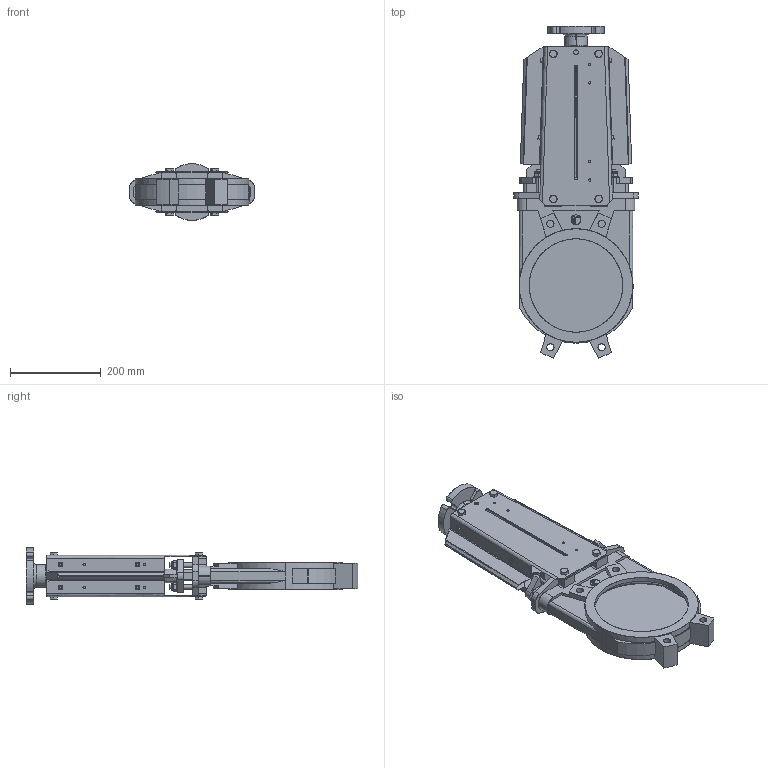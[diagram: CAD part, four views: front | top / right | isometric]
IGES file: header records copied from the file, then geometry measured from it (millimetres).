
Start section: SolidWorks IGES file using analytic representation for surfaces
Global section: file name: D:\part\3D Projects\VG-ELECTRICAL MOTOR(DN50-600)\AUMA\VG E A DN200\VG E A DN200.IGS; native system: SolidWorks 2009; preprocessor: SolidWorks 2009; author: zhixin.zheng; date: 100331.140830; units: millimetre
Bounding box: 275 x 731.7 x 125 mm (x, y, z)
Surface area: 820878.9 mm2 (no closed solid volume)
Topology: 0 solids, 0 shells, 909 faces, 9658 edges, 9658 vertices
Faces by surface type: bspline 567, revolution 342
